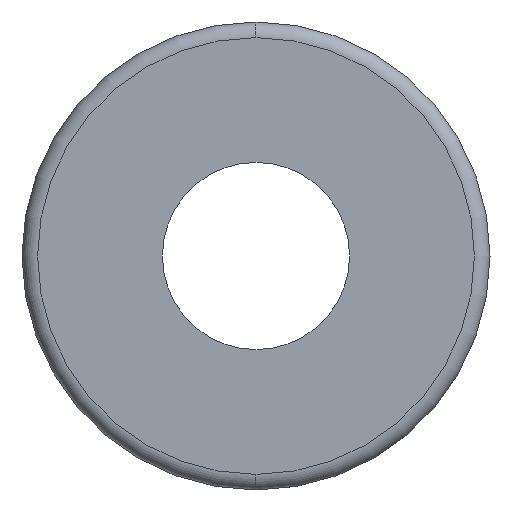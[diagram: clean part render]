
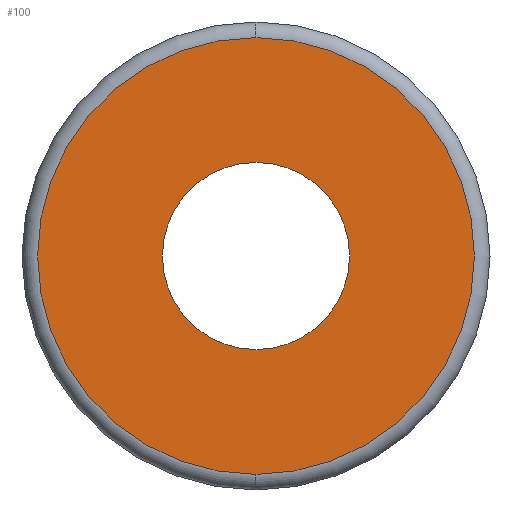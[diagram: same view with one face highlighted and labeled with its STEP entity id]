
A CAD part, left-side view. The second image highlights one B-rep face of the part: STEP entity #100.
In plain terms, the highlighted planar face has unit normal (-1, 0, 0).
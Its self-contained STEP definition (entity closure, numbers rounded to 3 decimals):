
#11 = EDGE_CURVE ( 'NONE', #294, #209, #268, .T. ) ;
#15 = ORIENTED_EDGE ( 'NONE', *, *, #132, .F. ) ;
#17 = CARTESIAN_POINT ( 'NONE',  ( 0., 0., 0. ) ) ;
#18 = AXIS2_PLACEMENT_3D ( 'NONE', #17, #234, #369 ) ;
#26 = DIRECTION ( 'NONE',  ( 0., 0., 1. ) ) ;
#27 = FACE_BOUND ( 'NONE', #71, .T. ) ;
#32 = DIRECTION ( 'NONE',  ( 0., 0., -1. ) ) ;
#59 = DIRECTION ( 'NONE',  ( -1., 0., 0. ) ) ;
#66 = CARTESIAN_POINT ( 'NONE',  ( 0., 6., 0. ) ) ;
#71 = EDGE_LOOP ( 'NONE', ( #97, #15 ) ) ;
#97 = ORIENTED_EDGE ( 'NONE', *, *, #11, .F. ) ;
#98 = DIRECTION ( 'NONE',  ( -1., 0., 0. ) ) ;
#100 = ADVANCED_FACE ( 'NONE', ( #130, #27 ), #210, .F. ) ;
#103 = ORIENTED_EDGE ( 'NONE', *, *, #178, .T. ) ;
#115 = CARTESIAN_POINT ( 'NONE',  ( 0., 0., 6. ) ) ;
#127 = AXIS2_PLACEMENT_3D ( 'NONE', #242, #180, #241 ) ;
#130 = FACE_OUTER_BOUND ( 'NONE', #254, .T. ) ;
#131 = VERTEX_POINT ( 'NONE', #183 ) ;
#132 = EDGE_CURVE ( 'NONE', #209, #294, #337, .T. ) ;
#144 = ORIENTED_EDGE ( 'NONE', *, *, #264, .T. ) ;
#164 = DIRECTION ( 'NONE',  ( 1., 0., 0. ) ) ;
#178 = EDGE_CURVE ( 'NONE', #131, #410, #192, .T. ) ;
#180 = DIRECTION ( 'NONE',  ( -1., 0., 0. ) ) ;
#183 = CARTESIAN_POINT ( 'NONE',  ( 0., 0., -14. ) ) ;
#192 = CIRCLE ( 'NONE', #318, 14. ) ;
#209 = VERTEX_POINT ( 'NONE', #259 ) ;
#210 = PLANE ( 'NONE',  #300 ) ;
#224 = CARTESIAN_POINT ( 'NONE',  ( 0., 0., 14. ) ) ;
#234 = DIRECTION ( 'NONE',  ( -1., 0., 0. ) ) ;
#236 = DIRECTION ( 'NONE',  ( 0., 0., -1. ) ) ;
#241 = DIRECTION ( 'NONE',  ( 0., 0., 1. ) ) ;
#242 = CARTESIAN_POINT ( 'NONE',  ( 0., 0., 0. ) ) ;
#254 = EDGE_LOOP ( 'NONE', ( #103, #144 ) ) ;
#259 = CARTESIAN_POINT ( 'NONE',  ( 0., 0., -6. ) ) ;
#264 = EDGE_CURVE ( 'NONE', #410, #131, #394, .T. ) ;
#268 = CIRCLE ( 'NONE', #411, 6. ) ;
#294 = VERTEX_POINT ( 'NONE', #115 ) ;
#300 = AXIS2_PLACEMENT_3D ( 'NONE', #66, #164, #236 ) ;
#318 = AXIS2_PLACEMENT_3D ( 'NONE', #363, #98, #32 ) ;
#337 = CIRCLE ( 'NONE', #127, 6. ) ;
#363 = CARTESIAN_POINT ( 'NONE',  ( 0., 0., 0. ) ) ;
#369 = DIRECTION ( 'NONE',  ( 0., 0., -1. ) ) ;
#392 = CARTESIAN_POINT ( 'NONE',  ( 0., 0., 0. ) ) ;
#394 = CIRCLE ( 'NONE', #18, 14. ) ;
#410 = VERTEX_POINT ( 'NONE', #224 ) ;
#411 = AXIS2_PLACEMENT_3D ( 'NONE', #392, #59, #26 ) ;
